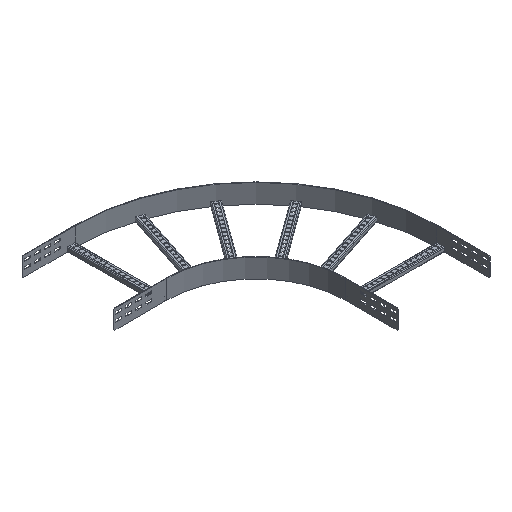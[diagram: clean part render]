
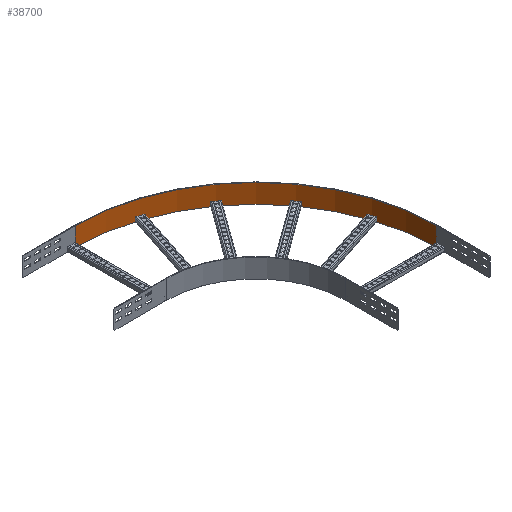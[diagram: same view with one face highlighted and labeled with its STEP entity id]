
A CAD part, isometric view. The second image highlights one B-rep face of the part: STEP entity #38700.
In plain terms, the highlighted cylindrical face has radius 905 mm (diameter 1810 mm), a partial arc.
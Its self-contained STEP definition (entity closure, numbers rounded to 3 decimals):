
#27080=CARTESIAN_POINT('',(905.,-504.,-50.));
#27090=VERTEX_POINT('',#27080);
#27120=CARTESIAN_POINT('',(0.,-504.,-50.))
;
#27130=DIRECTION('',(0.,0.,1.));
#27140=DIRECTION('',(1.,0.,0.));
#27150=AXIS2_PLACEMENT_3D('',#27120,#27130,#27140);
#27160=CIRCLE('',#27150,905.);
#27170=CARTESIAN_POINT('',(0.,401.,-50.));
#27180=VERTEX_POINT('',#27170);
#27190=EDGE_CURVE('',#27090,#27180,#27160,.T.);
#33490=CARTESIAN_POINT('',(0.,401.,0.));
#33500=DIRECTION('',(-0.,0.,1.));
#33510=VECTOR('',#33500,1.);
#33520=LINE('',#33490,#33510);
#33530=CARTESIAN_POINT('',(0.,401.,-145.));
#33540=VERTEX_POINT('',#33530);
#33550=EDGE_CURVE('',#33540,#27180,#33520,.T.);
#38080=CARTESIAN_POINT('',(0.,-504.,-145.)
);
#38090=DIRECTION('',(0.,0.,1.));
#38100=DIRECTION('',(1.,0.,0.));
#38110=AXIS2_PLACEMENT_3D('',#38080,#38090,#38100);
#38120=CIRCLE('',#38110,905.);
#38130=CARTESIAN_POINT('',(905.,-504.,-145.));
#38140=VERTEX_POINT('',#38130);
#38150=EDGE_CURVE('',#38140,#33540,#38120,.T.);
#38540=CARTESIAN_POINT('',(0.,-504.,-50.))
;
#38550=DIRECTION('',(0.,0.,1.));
#38560=DIRECTION('',(1.,0.,0.));
#38570=AXIS2_PLACEMENT_3D('',#38540,#38550,#38560);
#38580=CYLINDRICAL_SURFACE('',#38570,905.);
#38590=ORIENTED_EDGE('',*,*,#27190,.T.);
#38600=CARTESIAN_POINT('',(905.,-504.,-50.));
#38610=DIRECTION('',(0.,0.,1.));
#38620=VECTOR('',#38610,1.);
#38630=LINE('',#38600,#38620);
#38640=EDGE_CURVE('',#38140,#27090,#38630,.T.);
#38650=ORIENTED_EDGE('',*,*,#38640,.T.);
#38660=ORIENTED_EDGE('',*,*,#38150,.F.);
#38670=ORIENTED_EDGE('',*,*,#33550,.F.);
#38680=EDGE_LOOP('',(#38670,#38660,#38650,#38590));
#38690=FACE_OUTER_BOUND('',#38680,.T.);
#38700=ADVANCED_FACE('',(#38690),#38580,.F.);
